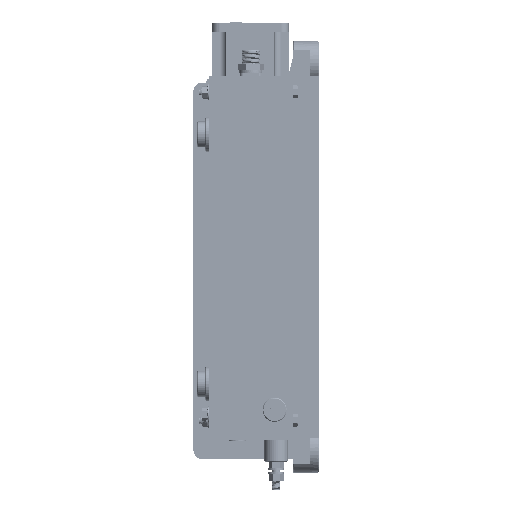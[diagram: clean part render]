
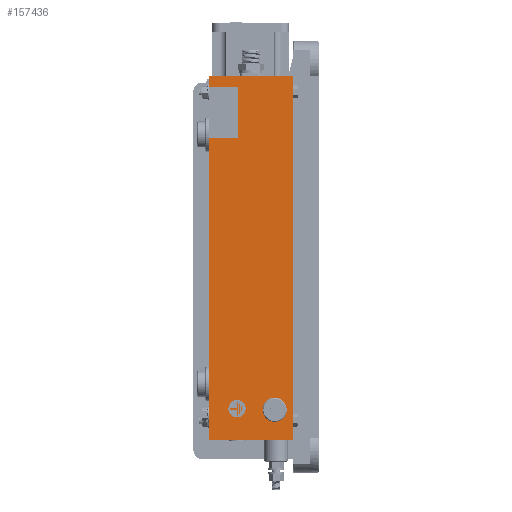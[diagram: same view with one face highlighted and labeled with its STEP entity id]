
A CAD part, left-side view. The second image highlights one B-rep face of the part: STEP entity #157436.
In plain terms, the highlighted planar face has unit normal (-1, 0, 0).
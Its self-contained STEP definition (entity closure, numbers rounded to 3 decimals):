
#21538 = EDGE_CURVE ( 'NONE', #52424, #269366, #66951, .T. ) ;
#36732 = VERTEX_POINT ( 'NONE', #257254 ) ;
#40282 = ORIENTED_EDGE ( 'NONE', *, *, #21538, .T. ) ;
#42591 = CARTESIAN_POINT ( 'NONE',  ( -515.797, 386.366, -20.116 ) ) ;
#52424 = VERTEX_POINT ( 'NONE', #270484 ) ;
#66033 = DIRECTION ( 'NONE',  ( 0., -1., 0. ) ) ;
#66796 = DIRECTION ( 'NONE',  ( 1., 0., 0. ) ) ;
#66951 = LINE ( 'NONE', #111524, #231042 ) ;
#67457 = LINE ( 'NONE', #132063, #155315 ) ;
#72719 = VECTOR ( 'NONE', #149770, 1000. ) ;
#83214 = EDGE_CURVE ( 'NONE', #91940, #36732, #151208, .T. ) ;
#91940 = VERTEX_POINT ( 'NONE', #218729 ) ;
#106860 = CARTESIAN_POINT ( 'NONE',  ( -515.797, 147.366, 59.884 ) ) ;
#110623 = DIRECTION ( 'NONE',  ( 0., 1., 0. ) ) ;
#111230 = EDGE_LOOP ( 'NONE', ( #224826, #219326, #146224, #40282 ) ) ;
#111524 = CARTESIAN_POINT ( 'NONE',  ( -515.797, 50.366, -360.116 ) ) ;
#132063 = CARTESIAN_POINT ( 'NONE',  ( -515.797, 228.366, 59.884 ) ) ;
#134565 = AXIS2_PLACEMENT_3D ( 'NONE', #42591, #66796, #237541 ) ;
#146224 = ORIENTED_EDGE ( 'NONE', *, *, #201271, .T. ) ;
#149770 = DIRECTION ( 'NONE',  ( 0., 0., -1. ) ) ;
#151208 = LINE ( 'NONE', #106860, #72719 ) ;
#155315 = VECTOR ( 'NONE', #110623, 1000. ) ;
#157436 = ADVANCED_FACE ( 'NONE', ( #238940 ), #260522, .F. ) ;
#162529 = EDGE_CURVE ( 'NONE', #269366, #91940, #67457, .T. ) ;
#176481 = LINE ( 'NONE', #215236, #263033 ) ;
#180231 = DIRECTION ( 'NONE',  ( 0., 0., 1. ) ) ;
#201271 = EDGE_CURVE ( 'NONE', #36732, #52424, #176481, .T. ) ;
#215236 = CARTESIAN_POINT ( 'NONE',  ( -515.797, 50.366, -362.116 ) ) ;
#218729 = CARTESIAN_POINT ( 'NONE',  ( -515.797, 147.366, 59.884 ) ) ;
#219326 = ORIENTED_EDGE ( 'NONE', *, *, #83214, .T. ) ;
#224826 = ORIENTED_EDGE ( 'NONE', *, *, #162529, .T. ) ;
#231042 = VECTOR ( 'NONE', #180231, 1000. ) ;
#237541 = DIRECTION ( 'NONE',  ( 0., 1., 0. ) ) ;
#238940 = FACE_OUTER_BOUND ( 'NONE', #111230, .T. ) ;
#250593 = CARTESIAN_POINT ( 'NONE',  ( -515.797, 50.366, 59.884 ) ) ;
#257254 = CARTESIAN_POINT ( 'NONE',  ( -515.797, 147.366, -362.116 ) ) ;
#260522 = PLANE ( 'NONE',  #134565 ) ;
#263033 = VECTOR ( 'NONE', #66033, 1000. ) ;
#269366 = VERTEX_POINT ( 'NONE', #250593 ) ;
#270484 = CARTESIAN_POINT ( 'NONE',  ( -515.797, 50.366, -362.116 ) ) ;
